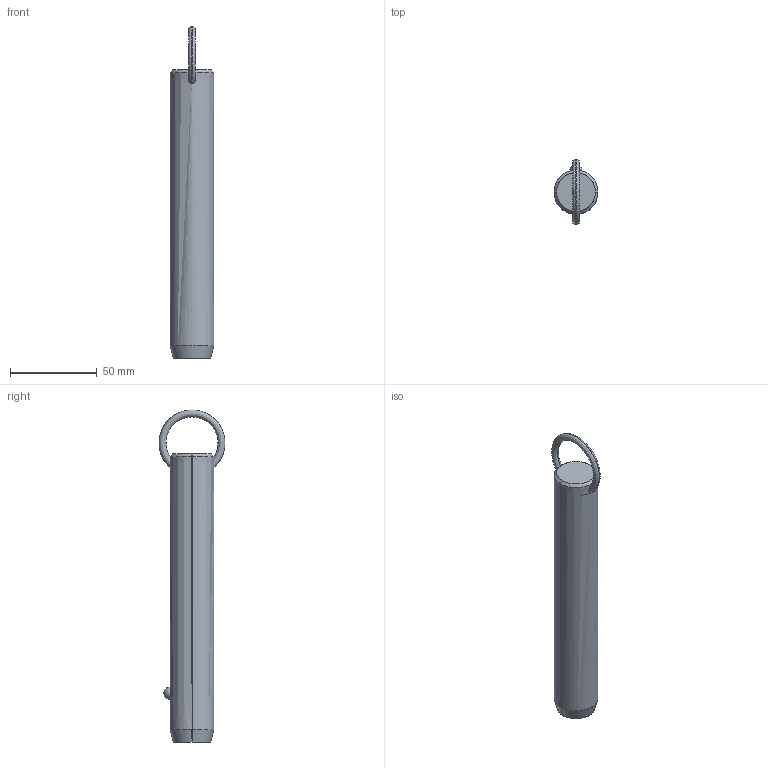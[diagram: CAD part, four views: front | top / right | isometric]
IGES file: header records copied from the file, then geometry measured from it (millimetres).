
Start section: SolidWorks IGES file using analytic representation for surfaces
Global section: file name: C:\Users\liam_\OneDrive\Documents\WORK\Work for WixRoyd\Job Files\J-00019 - Matt Davis CAD Checking\04. CAD Drawings\automotion20190605\P1250.2_v2\P1250.2_v2_20190729_IGES\P1250.100-480.igs; native system: SolidWorks 2017; preprocessor: SolidWorks 2017; author: liam_; date: 190730.174051; units: millimetre
Bounding box: 25.4 x 38.1 x 191.7 mm (x, y, z)
Surface area: 15043.5 mm2 (no closed solid volume)
Topology: 0 solids, 0 shells, 12 faces, 298 edges, 296 vertices
Faces by surface type: revolution 8, bspline 4
